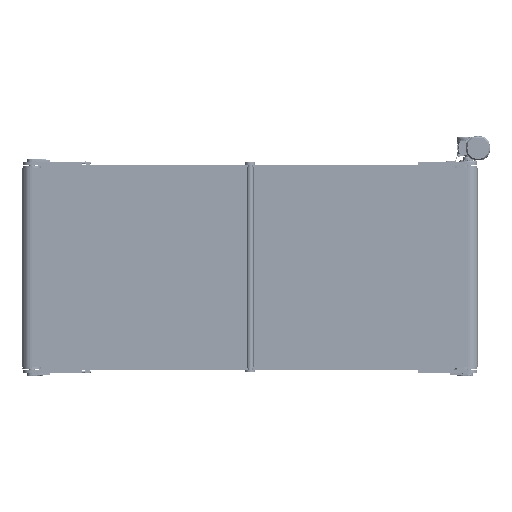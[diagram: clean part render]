
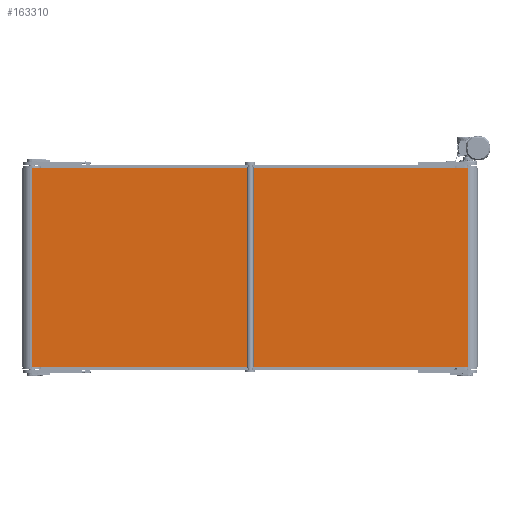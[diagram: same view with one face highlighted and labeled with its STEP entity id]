
A CAD part, front view. The second image highlights one B-rep face of the part: STEP entity #163310.
In plain terms, the highlighted planar face has unit normal (0, -1, 0).
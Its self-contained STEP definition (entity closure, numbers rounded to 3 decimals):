
#3330 = CARTESIAN_POINT ( 'NONE',  ( -1100., -49.5, 500. ) ) ;
#5887 = CARTESIAN_POINT ( 'NONE',  ( -1100., -49.5, -500. ) ) ;
#8666 = CARTESIAN_POINT ( 'NONE',  ( -1100., -49.5, 500. ) ) ;
#13153 = AXIS2_PLACEMENT_3D ( 'NONE', #18482, #129126, #163462 ) ;
#18482 = CARTESIAN_POINT ( 'NONE',  ( -1100., -49.5, 500. ) ) ;
#21653 = LINE ( 'NONE', #71055, #139970 ) ;
#29012 = VECTOR ( 'NONE', #78890, 1000. ) ;
#31309 = LINE ( 'NONE', #3330, #118211 ) ;
#33749 = LINE ( 'NONE', #164726, #29012 ) ;
#38083 = EDGE_CURVE ( 'NONE', #198495, #179670, #195537, .T. ) ;
#47561 = PLANE ( 'NONE',  #13153 ) ;
#62415 = CARTESIAN_POINT ( 'NONE',  ( 1100., -49.5, 500. ) ) ;
#64092 = VERTEX_POINT ( 'NONE', #8666 ) ;
#71055 = CARTESIAN_POINT ( 'NONE',  ( -1100., -49.5, 500. ) ) ;
#78890 = DIRECTION ( 'NONE',  ( 1., 0., 0. ) ) ;
#89239 = EDGE_CURVE ( 'NONE', #145656, #179670, #33749, .T. ) ;
#101598 = CARTESIAN_POINT ( 'NONE',  ( 1100., -49.5, -500. ) ) ;
#102029 = ORIENTED_EDGE ( 'NONE', *, *, #89239, .T. ) ;
#103261 = DIRECTION ( 'NONE',  ( 1., 0., 0. ) ) ;
#118211 = VECTOR ( 'NONE', #197680, 1000. ) ;
#129126 = DIRECTION ( 'NONE',  ( 0., 1., 0. ) ) ;
#130846 = ORIENTED_EDGE ( 'NONE', *, *, #131513, .T. ) ;
#130891 = CARTESIAN_POINT ( 'NONE',  ( 1100., -49.5, 500. ) ) ;
#131513 = EDGE_CURVE ( 'NONE', #64092, #145656, #31309, .T. ) ;
#139140 = ORIENTED_EDGE ( 'NONE', *, *, #163519, .F. ) ;
#139970 = VECTOR ( 'NONE', #103261, 1000. ) ;
#145656 = VERTEX_POINT ( 'NONE', #5887 ) ;
#147864 = ORIENTED_EDGE ( 'NONE', *, *, #38083, .F. ) ;
#161779 = EDGE_LOOP ( 'NONE', ( #102029, #147864, #139140, #130846 ) ) ;
#162402 = FACE_OUTER_BOUND ( 'NONE', #161779, .T. ) ;
#163310 = ADVANCED_FACE ( 'NONE', ( #162402 ), #47561, .F. ) ;
#163462 = DIRECTION ( 'NONE',  ( 0., 0., 1. ) ) ;
#163519 = EDGE_CURVE ( 'NONE', #64092, #198495, #21653, .T. ) ;
#164726 = CARTESIAN_POINT ( 'NONE',  ( -1100., -49.5, -500. ) ) ;
#167155 = VECTOR ( 'NONE', #176228, 1000. ) ;
#176228 = DIRECTION ( 'NONE',  ( 0., 0., -1. ) ) ;
#179670 = VERTEX_POINT ( 'NONE', #101598 ) ;
#195537 = LINE ( 'NONE', #62415, #167155 ) ;
#197680 = DIRECTION ( 'NONE',  ( 0., 0., -1. ) ) ;
#198495 = VERTEX_POINT ( 'NONE', #130891 ) ;
